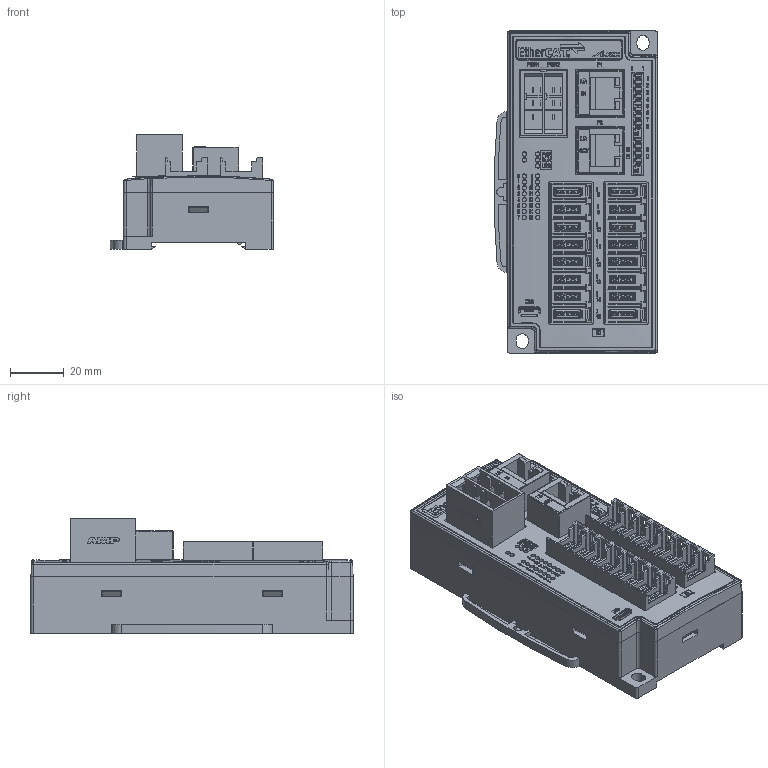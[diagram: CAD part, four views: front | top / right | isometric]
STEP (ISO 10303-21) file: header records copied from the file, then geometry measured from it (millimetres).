
FILE_DESCRIPTION((''),'2;1');
FILE_NAME('ECEPF0','2026-05-11T15:33:17',('gijyu181'),(''),'CREO PARAMETRIC BY PTC INC, 2018050','CREO PARAMETRIC BY PTC INC, 2018050','');
FILE_SCHEMA(('CONFIG_CONTROL_DESIGN','SHAPE_APPEARANCE_LAYERS_GROUPS'));
Products named in the file (1): ECEPF0
Bounding box: 60.87 x 120 x 42.6 mm (x, y, z)
Volume: 156779.5 mm3; surface area: 65206.5 mm2
Topology: 5 solids, 50 shells, 9412 faces, 26763 edges, 17825 vertices
Faces by surface type: plane 7383, extrusion 1210, cylinder 685, bspline 69, cone 41, torus 20, sphere 4
Entity records: 392695 total; most frequent: CARTESIAN_POINT 87212, ORIENTED_EDGE 53526, DIRECTION 42689, EDGE_CURVE 26763, VECTOR 23227, LINE 22017, VERTEX_POINT 17825, EDGE_LOOP 10426
